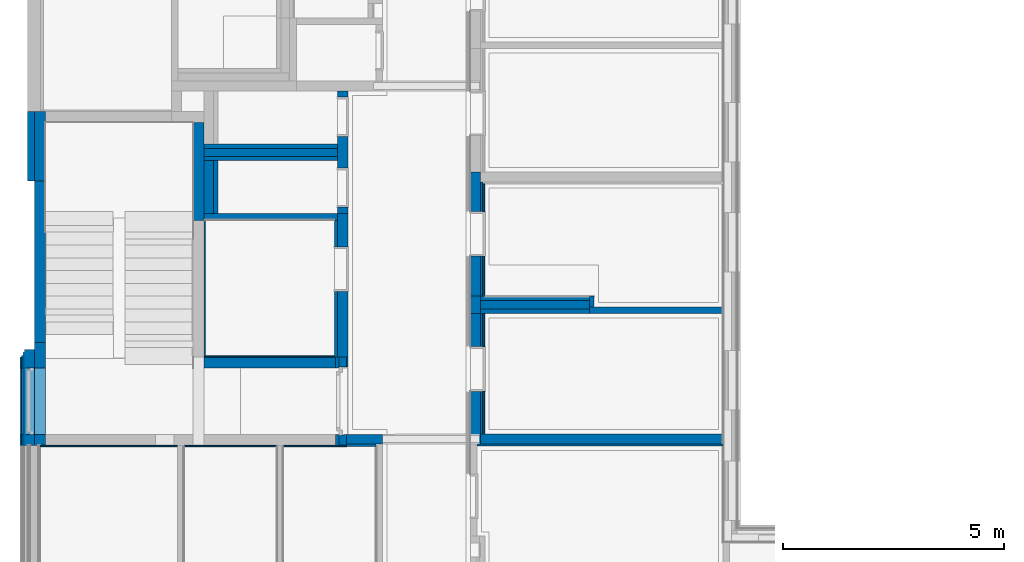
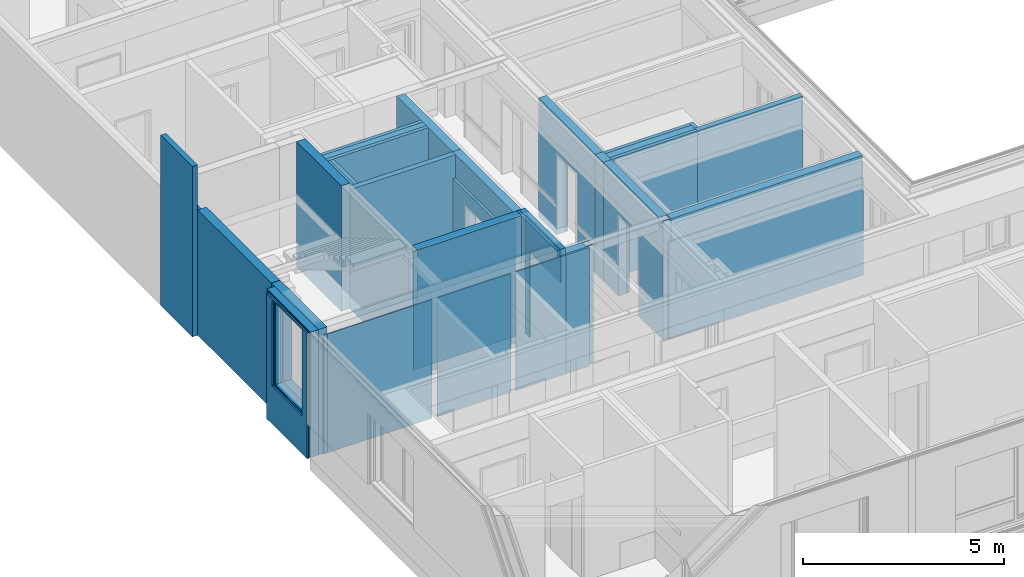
# One storey, part 14 of 207: 43 walls, 20 openings.
"""IFC4 building model written with IfcOpenShell, lengths in metres."""

from ifc_helpers import new_model, entity, si_unit, converted_unit, derived_unit, frame, frame_2d, origin, origin_with_axes, place, context, subcontext, project, spatial, polyline, rectangle, outline, extrude, clip, bounded_halfspace, material, element, save


model = new_model("IFC4")

# Units and contexts
model_context = context("Model", 3, precision=1e-05, world=origin())
body_context = subcontext(model_context, "Body", "Model", "MODEL_VIEW")
ifc_project = project(units=[si_unit("LENGTHUNIT", "METRE"), si_unit("AREAUNIT", "SQUARE_METRE"), si_unit("VOLUMEUNIT", "CUBIC_METRE"), si_unit("MASSUNIT", "GRAM", prefix="KILO"), converted_unit("PLANEANGLEUNIT", "DEGREE", entity("IfcPlaneAngleMeasure", 0.0174532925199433), si_unit("PLANEANGLEUNIT", "RADIAN"), dimensions=[0, 0, 0, 0, 0, 0, 0]), derived_unit("THERMALTRANSMITTANCEUNIT", [(si_unit("POWERUNIT", "WATT"), 1), (si_unit("THERMODYNAMICTEMPERATUREUNIT", "KELVIN"), -1), (si_unit("LENGTHUNIT", "METRE"), -2)]), derived_unit("VOLUMETRICFLOWRATEUNIT", [(si_unit("LENGTHUNIT", "METRE"), 3), (converted_unit("TIMEUNIT", "hour", entity("IfcTimeMeasure", 3600.0), si_unit("TIMEUNIT", "SECOND"), dimensions=[0, 0, 1, 0, 0, 0, 0]), -1), (si_unit("LENGTHUNIT", "METRE"), -1)])], contexts=[model_context])

# Site, building, storey
site_placement = place(None, origin())
site = spatial("IfcSite", under=ifc_project, at=site_placement, Name="Psychiatrie Neubau Wunstorf", CompositionType="ELEMENT")
building_placement = place(site_placement, origin())
building = spatial("IfcBuilding", under=site, at=building_placement, Name="Neubau H2 Stationsgebäude", CompositionType="ELEMENT")
storey_placement = place(building_placement, frame((0.0, 0.0, -0.2)))
storey = spatial("IfcBuildingStorey", under=building, at=storey_placement, Name="H2 Ebene 0", CompositionType="ELEMENT", Elevation=-0.2)

# Walls
ifc_material_1 = material(Name="WA-STB")
wall_1_placement = place(storey_placement, frame((0.279999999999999, 15.614246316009, 0.0), z_axis=(0.0, 0.0, 1.0), x_axis=(-1.43838785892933e-16, 1.0, 0.0)))
element("IfcWall", 1, at=wall_1_placement, inside=storey, material=ifc_material_1, context=body_context, shape_type="SweptSolid", body=[
    extrude(rectangle(XDim=1.58075357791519, YDim=0.25, at=frame_2d((0.790376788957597, 0.125), x_axis=(1.0, 0.0))), origin_with_axes(), (0.0, 0.0, 1.0), 3.6),
])
ifc_material_2 = material(Name="WA-DL")
wall_2_placement = place(storey_placement, frame((0.0299999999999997, 15.614246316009, 0.0), z_axis=(0.0, 0.0, 1.0), x_axis=(-1.43838785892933e-16, 1.0, 0.0)))
element("IfcWall", 2, at=wall_2_placement, inside=storey, material=ifc_material_2, context=body_context, shape_type="SweptSolid", body=[
    extrude(rectangle(XDim=1.58075357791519, YDim=0.151, at=frame_2d((0.790376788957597, 0.0755), x_axis=(1.0, 0.0))), origin_with_axes(), (0.0, 0.0, 1.0), 5.16),
])
ifc_material_3 = material(Name="WA-STB")
wall_3_placement = place(storey_placement, frame((0.279999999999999, 11.9562462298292, 0.0), z_axis=(0.0, 0.0, 1.0), x_axis=(6.21579196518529e-17, 1.0, 0.0)))
element("IfcWall", 3, at=wall_3_placement, inside=storey, material=ifc_material_3, context=body_context, shape_type="SweptSolid", body=[
    extrude(rectangle(XDim=3.65800008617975, YDim=0.25, at=frame_2d((1.82900004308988, 0.125), x_axis=(1.0, 0.0))), origin_with_axes(), (0.0, 0.0, 1.0), 3.8),
])

# Wall, opening
ifc_material_4 = material(Name="WA-STB")
wall_4_placement = place(storey_placement, frame((0.28, 9.62499989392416, 0.0), z_axis=(0.0, 0.0, 1.0), x_axis=(0.0, 1.0, 0.0)))
wall_4 = element("IfcWall", 4, at=wall_4_placement, inside=storey, material=ifc_material_4, context=body_context, shape_type="SweptSolid", body=[
    extrude(rectangle(XDim=2.33124633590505, YDim=0.25, at=frame_2d((1.16562316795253, 0.125), x_axis=(1.0, 0.0))), origin_with_axes(), (0.0, 0.0, 1.0), 3.8),
])
opening_1_placement = place(wall_4_placement, frame((1.75, 0.25, 1.155), z_axis=(0.0, -1.0, 0.0), x_axis=(0.0, 0.0, 1.0)))
element("IfcOpeningElement", 5, at=opening_1_placement, cuts=wall_4, Name="Türöffnung", ObjectType="Opening", context=body_context, shape_type="SweptSolid", body=[
    extrude(outline(polyline([(2.6, 1.5000257), (2.6, 0.0), (0.0, 0.0), (0.0, 1.5000257), (2.6, 1.5000257)])), origin_with_axes(), (0.0, 0.0, 1.0), 0.25),
])

ifc_material_5 = material(Name="WA-DL")
wall_5_placement = place(storey_placement, frame((0.0299999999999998, 9.62499989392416, 0.0), z_axis=(0.0, 0.0, 1.0), x_axis=(0.0, 1.0, 0.0)))
wall_5 = element("IfcWall", 6, at=wall_5_placement, inside=storey, material=ifc_material_5, context=body_context, shape_type="SweptSolid", body=[
    extrude(rectangle(XDim=2.17124634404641, YDim=0.22, at=frame_2d((1.0856231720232, 0.11), x_axis=(1.0, 0.0))), origin_with_axes(), (0.0, 0.0, 1.0), 3.8),
])
opening_2_placement = place(wall_5_placement, frame((1.75, 0.22, 1.155), z_axis=(0.0, -1.0, 0.0), x_axis=(0.0, 0.0, 1.0)))
element("IfcOpeningElement", 7, at=opening_2_placement, cuts=wall_5, Name="Türöffnung", ObjectType="Opening", context=body_context, shape_type="SweptSolid", body=[
    extrude(outline(polyline([(2.6, 1.5000257), (2.6, 0.0), (0.0, 0.0), (0.0, 1.5000257), (2.6, 1.5000257)])), origin_with_axes(), (0.0, 0.0, 1.0), 0.22),
])

ifc_material_6 = material(Name="WA-LB")
wall_6_placement = place(storey_placement, frame((-0.19, 9.62499989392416, 0.5), z_axis=(0.0, 0.0, 1.0), x_axis=(0.0, 1.0, 0.0)))
wall_6 = element("IfcWall", 8, at=wall_6_placement, inside=storey, material=ifc_material_6, context=body_context, shape_type="SweptSolid", body=[
    extrude(rectangle(XDim=2.09124635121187, YDim=0.01, at=frame_2d((1.04562317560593, 0.005), x_axis=(1.0, 0.0))), origin_with_axes(), (0.0, 0.0, 1.0), 3.3),
])
opening_3_placement = place(wall_6_placement, frame((1.75, 0.01, 0.655), z_axis=(0.0, -1.0, 0.0), x_axis=(0.0, 0.0, 1.0)))
element("IfcOpeningElement", 9, at=opening_3_placement, cuts=wall_6, Name="Türöffnung", ObjectType="Opening", context=body_context, shape_type="SweptSolid", body=[
    extrude(outline(polyline([(2.6, 1.5000257), (2.6, 0.0), (0.0, 0.0), (0.0, 1.5000257), (2.6, 1.5000257)])), origin_with_axes(), (0.0, 0.0, 1.0), 0.01),
])

ifc_material_7 = material(Name="WA-KL")
wall_7_placement = place(storey_placement, frame((-0.2, 9.62499989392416, 0.0), z_axis=(0.0, 0.0, 1.0), x_axis=(0.0, 1.0, 0.0)))
wall_7 = element("IfcWall", 10, at=wall_7_placement, inside=storey, material=ifc_material_7, context=body_context, shape_type="SweptSolid", body=[
    extrude(rectangle(XDim=2.05524635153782, YDim=0.025, at=frame_2d((1.02762317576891, 0.0125), x_axis=(1.0, 0.0))), origin_with_axes(), (0.0, 0.0, 1.0), 3.8),
])
opening_4_placement = place(wall_7_placement, frame((1.75, 0.025, 1.155), z_axis=(0.0, -1.0, 0.0), x_axis=(0.0, 0.0, 1.0)))
element("IfcOpeningElement", 11, at=opening_4_placement, cuts=wall_7, Name="Türöffnung", ObjectType="Opening", context=body_context, shape_type="SweptSolid", body=[
    extrude(outline(polyline([(2.6, 1.5000257), (2.6, 0.0), (0.0, 0.0), (0.0, 1.5000257), (2.6, 1.5000257)])), origin_with_axes(), (0.0, 0.0, 1.0), 0.025),
])

ifc_material_8 = material(Name="WA-TL")
wall_8_placement = place(storey_placement, frame((-0.225, 9.62499989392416, 0.0), z_axis=(0.0, 0.0, 1.0), x_axis=(0.0, 1.0, 0.0)))
wall_8 = element("IfcWall", 12, at=wall_8_placement, inside=storey, material=ifc_material_8, context=body_context, shape_type="SweptSolid", body=[
    extrude(rectangle(XDim=2.03124635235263, YDim=0.025, at=frame_2d((1.01562317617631, 0.0125), x_axis=(1.0, 0.0))), origin_with_axes(), (0.0, 0.0, 1.0), 3.8),
])
opening_5_placement = place(wall_8_placement, frame((1.75, 0.025, 1.155), z_axis=(0.0, -1.0, 0.0), x_axis=(0.0, 0.0, 1.0)))
element("IfcOpeningElement", 13, at=opening_5_placement, cuts=wall_8, Name="Türöffnung", ObjectType="Opening", context=body_context, shape_type="SweptSolid", body=[
    extrude(outline(polyline([(2.6, 1.5000257), (2.6, 0.0), (0.0, 0.0), (0.0, 1.5000257), (2.6, 1.5000257)])), origin_with_axes(), (0.0, 0.0, 1.0), 0.025),
])

ifc_material_9 = material(Name="WA-HS")
wall_9_placement = place(storey_placement, frame((-0.25, 9.62499989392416, 0.0), z_axis=(0.0, 0.0, 1.0), x_axis=(0.0, 1.0, 0.0)))
wall_9 = element("IfcWall", 14, at=wall_9_placement, inside=storey, material=ifc_material_9, context=body_context, shape_type="SweptSolid", body=[
    extrude(rectangle(XDim=2.00724635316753, YDim=0.042, at=frame_2d((1.00362317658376, 0.021), x_axis=(1.0, 0.0))), origin_with_axes(), (0.0, 0.0, 1.0), 3.8),
])
opening_6_placement = place(wall_9_placement, frame((1.75, 0.042, 1.155), z_axis=(0.0, -1.0, 0.0), x_axis=(0.0, 0.0, 1.0)))
element("IfcOpeningElement", 15, at=opening_6_placement, cuts=wall_9, Name="Türöffnung", ObjectType="Opening", context=body_context, shape_type="SweptSolid", body=[
    extrude(outline(polyline([(2.6, 1.5000257), (2.6, 0.0), (0.0, 0.0), (0.0, 1.5000257), (2.6, 1.5000257)])), origin_with_axes(), (0.0, 0.0, 1.0), 0.042),
])

# Walls
ifc_material_10 = material(Name="WI-LB")
wall_10_placement = place(storey_placement, frame((6.90899877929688, 14.8750132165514, 0.0), z_axis=(0.0, 0.0, 1.0), x_axis=(-1.0, 0.0, 0.0)))
element("IfcWall", 16, at=wall_10_placement, inside=storey, material=ifc_material_10, context=body_context, shape_type="SweptSolid", body=[
    extrude(rectangle(XDim=3.02899877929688, YDim=0.15, at=frame_2d((1.51449938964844, 0.075), x_axis=(1.0, 0.0))), origin_with_axes(), (0.0, 0.0, 1.0), 3.6),
])
ifc_material_11 = material(Name="WI-IW")
wall_11_placement = place(storey_placement, frame((0.169, 9.59499989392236, 0.0)))
element("IfcWall", 17, at=wall_11_placement, inside=storey, material=ifc_material_11, context=body_context, shape_type="SweptSolid", body=[
    extrude(rectangle(XDim=0.111, YDim=0.0299996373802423, at=frame_2d((0.0555, 0.0149998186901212), x_axis=(1.0, 0.0))), origin_with_axes(), (0.0, 0.0, 1.0), 3.6),
])

# Wall, openings
ifc_material_12 = material(Name="WI-HW 60")
wall_12_placement = place(storey_placement, frame((7.14099877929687, 14.8750132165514, 0.0), z_axis=(0.0, 0.0, 1.0), x_axis=(0.0, 1.0, 0.0)))
wall_12 = element("IfcWall", 18, at=wall_12_placement, inside=storey, material=ifc_material_12, context=body_context, shape_type="SweptSolid", body=[
    extrude(rectangle(XDim=2.779, YDim=0.232, at=frame_2d((1.3895, 0.116), x_axis=(1.0, 0.0))), origin_with_axes(), (0.0, 0.0, 1.0), 3.6),
])
opening_7_placement = place(wall_12_placement, frame((0.15, 0.0, 0.0), z_axis=(0.0, 1.0, 0.0), x_axis=(0.0, 0.0, 1.0)))
element("IfcOpeningElement", 19, at=opening_7_placement, cuts=wall_12, Name="Türöffnung", ObjectType="Opening", context=body_context, shape_type="SweptSolid", body=[
    extrude(outline(polyline([(2.46, 0.885), (2.46, 0.0), (0.0, 0.0), (0.0, 0.885), (2.46, 0.885)])), origin_with_axes(), (0.0, 0.0, 1.0), 0.232),
])
opening_8_placement = place(wall_12_placement, frame((1.75500131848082, 0.0, 0.0), z_axis=(0.0, 1.0, 0.0), x_axis=(0.0, 0.0, 1.0)))
element("IfcOpeningElement", 20, at=opening_8_placement, cuts=wall_12, Name="Türöffnung", ObjectType="Opening", context=body_context, shape_type="SweptSolid", body=[
    extrude(outline(polyline([(2.46, 0.885), (2.46, 0.0), (0.0, 0.0), (0.0, 0.885), (2.46, 0.885)])), origin_with_axes(), (0.0, 0.0, 1.0), 0.232),
])

# Walls
ifc_material_13 = material(Name="WI-HW 60")
wall_13_placement = place(storey_placement, frame((15.639, 9.88199989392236, 0.0), z_axis=(0.0, 0.0, 1.0), x_axis=(-1.0, 0.0, 0.0)))
element("IfcWall", 21, at=wall_13_placement, inside=storey, material=ifc_material_13, context=body_context, shape_type="SweptSolid", body=[
    extrude(rectangle(XDim=5.48949997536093, YDim=0.232, at=frame_2d((2.74474998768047, 0.116), x_axis=(1.0, 0.0))), origin_with_axes(), (0.0, 0.0, 1.0), 3.6),
])
ifc_material_14 = material(Name="WI-LB")
wall_14_placement = place(storey_placement, frame((15.639, 9.64999989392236, 0.0), z_axis=(0.0, 0.0, 1.0), x_axis=(-1.0, 0.0, 0.0)))
element("IfcWall", 22, at=wall_14_placement, inside=storey, material=ifc_material_14, context=body_context, shape_type="SweptSolid", body=[
    extrude(rectangle(XDim=5.57149997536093, YDim=0.0395, at=frame_2d((2.78574998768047, 0.01975), x_axis=(1.0, 0.0))), origin_with_axes(), (0.0, 0.0, 1.0), 2.95),
])

# Wall, opening
ifc_material_15 = material(Name="WI-LB")
wall_15_placement = place(storey_placement, frame((10.2390000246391, 9.88249989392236, 0.0), z_axis=(0.0, 0.0, 1.0), x_axis=(0.0, 1.0, 0.0)))
wall_15 = element("IfcWall", 23, at=wall_15_placement, inside=storey, material=ifc_material_15, context=body_context, shape_type="SweptSolid", body=[
    extrude(rectangle(XDim=2.72850010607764, YDim=0.0395, at=frame_2d((1.36425005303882, 0.01975), x_axis=(1.0, 0.0))), origin_with_axes(), (0.0, 0.0, 1.0), 2.95),
])
opening_9_placement = place(wall_15_placement, frame((1.97850010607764, 0.0395, 0.0), z_axis=(0.0, -1.0, 0.0), x_axis=(0.0, 0.0, 1.0)))
element("IfcOpeningElement", 24, at=opening_9_placement, cuts=wall_15, Name="Türöffnung", ObjectType="Opening", context=body_context, shape_type="SweptSolid", body=[
    extrude(outline(polyline([(2.46, 1.01), (2.46, 0.0), (0.0, 0.0), (0.0, 1.01), (2.46, 1.01)])), origin_with_axes(), (0.0, 0.0, 1.0), 0.0395),
])

ifc_material_16 = material(Name="Installationsraum")
wall_16_placement = place(storey_placement, frame((10.1995000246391, 9.88249989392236, 0.0), z_axis=(0.0, 0.0, 1.0), x_axis=(0.0, 1.0, 0.0)))
wall_16 = element("IfcWall", 25, at=wall_16_placement, inside=storey, material=ifc_material_16, context=body_context, shape_type="SweptSolid", body=[
    extrude(rectangle(XDim=2.72850010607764, YDim=0.05, at=frame_2d((1.36425005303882, 0.025), x_axis=(1.0, 0.0))), origin_with_axes(), (0.0, 0.0, 1.0), 2.95),
])
opening_10_placement = place(wall_16_placement, frame((1.97850010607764, 0.05, 0.0), z_axis=(0.0, -1.0, 0.0), x_axis=(0.0, 0.0, 1.0)))
element("IfcOpeningElement", 26, at=opening_10_placement, cuts=wall_16, Name="Türöffnung", ObjectType="Opening", context=body_context, shape_type="SweptSolid", body=[
    extrude(outline(polyline([(2.46, 1.01), (2.46, 0.0), (0.0, 0.0), (0.0, 1.01), (2.46, 1.01)])), origin_with_axes(), (0.0, 0.0, 1.0), 0.05),
])

ifc_material_17 = material(Name="WI-HW 60")
wall_17_placement = place(storey_placement, frame((10.1495000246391, 9.64999989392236, 0.0), z_axis=(0.0, 0.0, 1.0), x_axis=(0.0, 1.0, 0.0)))
wall_17 = element("IfcWall", 27, at=wall_17_placement, inside=storey, material=ifc_material_17, context=body_context, shape_type="Clipping", body=[
    clip(extrude(rectangle(XDim=2.96100010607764, YDim=0.232, at=frame_2d((1.48050005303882, 0.116), x_axis=(1.0, 0.0))), origin_with_axes(), (0.0, 0.0, 1.0), 3.6), bounded_halfspace(frame((0.115999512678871, 0.128252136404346, 3.4), z_axis=(0.0, 0.0, -1.0), x_axis=(-1.0, 0.0, 0.0)), True, origin_with_axes(), polyline([(0.195999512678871, 0.232), (0.035999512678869, 0.232), (0.035999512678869, 0.0245042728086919), (0.195999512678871, 0.0245042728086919), (0.195999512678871, 0.232)]))),
])
opening_11_placement = place(wall_17_placement, frame((2.21100010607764, 0.232, 0.0), z_axis=(0.0, -1.0, 0.0), x_axis=(0.0, 0.0, 1.0)))
element("IfcOpeningElement", 28, at=opening_11_placement, cuts=wall_17, Name="Türöffnung", ObjectType="Opening", context=body_context, shape_type="SweptSolid", body=[
    extrude(outline(polyline([(2.46, 1.01), (2.46, 0.0), (0.0, 0.0), (0.0, 1.01), (2.46, 1.01)])), origin_with_axes(), (0.0, 0.0, 1.0), 0.232),
])

# Wall
ifc_material_18 = material(Name="WI-LB")
wall_18_placement = place(storey_placement, frame((15.639, 12.761, 0.0), z_axis=(0.0, 0.0, 1.0), x_axis=(-1.0, 0.0, 0.0)))
element("IfcWall", 29, at=wall_18_placement, inside=storey, material=ifc_material_18, context=body_context, shape_type="SweptSolid", body=[
    extrude(rectangle(XDim=3.01999997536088, YDim=0.15, at=frame_2d((1.50999998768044, 0.075), x_axis=(1.0, 0.0))), origin_with_axes(), (0.0, 0.0, 1.0), 3.6),
])

# Wall, opening
ifc_material_19 = material(Name="WI-LB")
wall_19_placement = place(storey_placement, frame((10.2390000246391, 13.011, 0.0), z_axis=(0.0, 0.0, 1.0), x_axis=(0.0, 1.0, 0.0)))
wall_19 = element("IfcWall", 30, at=wall_19_placement, inside=storey, material=ifc_material_19, context=body_context, shape_type="SweptSolid", body=[
    extrude(rectangle(XDim=2.543, YDim=0.0395, at=frame_2d((1.2715, 0.01975), x_axis=(1.0, 0.0))), origin_with_axes(), (0.0, 0.0, 1.0), 2.95),
])
opening_12_placement = place(wall_19_placement, frame((1.91399989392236, 0.0395, 0.0), z_axis=(0.0, -1.0, 0.0), x_axis=(0.0, 0.0, 1.0)))
element("IfcOpeningElement", 31, at=opening_12_placement, cuts=wall_19, Name="Türöffnung", ObjectType="Opening", context=body_context, shape_type="SweptSolid", body=[
    extrude(outline(polyline([(2.46, 1.01), (2.46, 0.0), (0.0, 0.0), (0.0, 1.01), (2.46, 1.01)])), origin_with_axes(), (0.0, 0.0, 1.0), 0.0395),
])

ifc_material_20 = material(Name="Installationsraum")
wall_20_placement = place(storey_placement, frame((10.1995000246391, 13.011, 0.0), z_axis=(0.0, 0.0, 1.0), x_axis=(0.0, 1.0, 0.0)))
wall_20 = element("IfcWall", 32, at=wall_20_placement, inside=storey, material=ifc_material_20, context=body_context, shape_type="SweptSolid", body=[
    extrude(rectangle(XDim=2.5825, YDim=0.05, at=frame_2d((1.29125, 0.025), x_axis=(1.0, 0.0))), origin_with_axes(), (0.0, 0.0, 1.0), 2.95),
])
opening_13_placement = place(wall_20_placement, frame((1.91399989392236, 0.05, 0.0), z_axis=(0.0, -1.0, 0.0), x_axis=(0.0, 0.0, 1.0)))
element("IfcOpeningElement", 33, at=opening_13_placement, cuts=wall_20, Name="Türöffnung", ObjectType="Opening", context=body_context, shape_type="SweptSolid", body=[
    extrude(outline(polyline([(2.46, 1.01), (2.46, 0.0), (0.0, 0.0), (0.0, 1.01), (2.46, 1.01)])), origin_with_axes(), (0.0, 0.0, 1.0), 0.05),
])

ifc_material_21 = material(Name="WI-HW 60")
wall_21_placement = place(storey_placement, frame((10.1495000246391, 13.011, 0.0), z_axis=(0.0, 0.0, 1.0), x_axis=(0.0, 1.0, 0.0)))
wall_21 = element("IfcWall", 34, at=wall_21_placement, inside=storey, material=ifc_material_21, context=body_context, shape_type="SweptSolid", body=[
    extrude(rectangle(XDim=2.8145, YDim=0.232, at=frame_2d((1.40725, 0.116), x_axis=(1.0, 0.0))), origin_with_axes(), (0.0, 0.0, 1.0), 3.6),
])
opening_14_placement = place(wall_21_placement, frame((1.91399989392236, 0.232, 0.0), z_axis=(0.0, -1.0, 0.0), x_axis=(0.0, 0.0, 1.0)))
element("IfcOpeningElement", 35, at=opening_14_placement, cuts=wall_21, Name="Türöffnung", ObjectType="Opening", context=body_context, shape_type="SweptSolid", body=[
    extrude(outline(polyline([(2.46, 1.01), (2.46, 0.0), (0.0, 0.0), (0.0, 1.01), (2.46, 1.01)])), origin_with_axes(), (0.0, 0.0, 1.0), 0.232),
])

# Walls
ifc_material_22 = material(Name="WI-HW 60")
wall_22_placement = place(storey_placement, frame((9.91750002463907, 13.011, 0.0), z_axis=(0.0, 0.0, 1.0), x_axis=(0.0, -1.0, 0.0)))
element("IfcWall", 36, at=wall_22_placement, inside=storey, material=ifc_material_22, context=body_context, shape_type="SweptSolid", body=[
    extrude(rectangle(XDim=0.400000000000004, YDim=0.232, at=frame_2d((0.200000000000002, 0.116), x_axis=(1.0, 0.0))), origin_with_axes(), (0.0, 0.0, 1.0), 3.6),
])
ifc_material_23 = material(Name="WI-IW")
wall_23_placement = place(storey_placement, frame((12.6190000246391, 13.011, 0.0), z_axis=(0.0, 0.0, 1.0), x_axis=(-1.0, 0.0, 0.0)))
element("IfcWall", 37, at=wall_23_placement, inside=storey, material=ifc_material_23, context=body_context, shape_type="SweptSolid", body=[
    extrude(rectangle(XDim=2.46950000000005, YDim=0.1, at=frame_2d((1.23475000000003, 0.05), x_axis=(1.0, 0.0))), origin_with_axes(), (0.0, 0.0, 1.0), 3.6),
])
ifc_material_24 = material(Name="Installationsraum")
wall_24_placement = place(storey_placement, frame((12.6190000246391, 12.911, 0.0), z_axis=(0.0, 0.0, 1.0), x_axis=(-1.0, 0.0, 0.0)))
element("IfcWall", 38, at=wall_24_placement, inside=storey, material=ifc_material_24, context=body_context, shape_type="SweptSolid", body=[
    extrude(rectangle(XDim=2.46950000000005, YDim=0.2, at=frame_2d((1.23475000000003, 0.1), x_axis=(1.0, 0.0))), origin_with_axes(), (0.0, 0.0, 1.0), 3.6),
])
ifc_material_25 = material(Name="WI-IW")
wall_25_placement = place(storey_placement, frame((12.6190000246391, 12.711, 0.0), z_axis=(0.0, 0.0, 1.0), x_axis=(-1.0, 0.0, 0.0)))
element("IfcWall", 39, at=wall_25_placement, inside=storey, material=ifc_material_25, context=body_context, shape_type="SweptSolid", body=[
    extrude(rectangle(XDim=2.46950000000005, YDim=0.1, at=frame_2d((1.23475000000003, 0.05), x_axis=(1.0, 0.0))), origin_with_axes(), (0.0, 0.0, 1.0), 3.6),
])
ifc_material_26 = material(Name="WI-IW")
wall_26_placement = place(storey_placement, frame((12.7190000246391, 12.761, 0.0), z_axis=(0.0, 0.0, 1.0), x_axis=(0.0, 1.0, 0.0)))
element("IfcWall", 40, at=wall_26_placement, inside=storey, material=ifc_material_26, context=body_context, shape_type="SweptSolid", body=[
    extrude(rectangle(XDim=0.25, YDim=0.1, at=frame_2d((0.125, 0.05), x_axis=(1.0, 0.0))), origin_with_axes(), (0.0, 0.0, 1.0), 3.6),
])
ifc_material_27 = material(Name="WI-IW")
wall_27_placement = place(storey_placement, frame((3.88, 16.0770132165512, 0.0)))
element("IfcWall", 41, at=wall_27_placement, inside=storey, material=ifc_material_27, context=body_context, shape_type="SweptSolid", body=[
    extrude(outline(polyline([(0.0, 0.0), (3.02899877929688, 0.0), (3.02899877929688, 0.1), (0.31, 0.1), (0.0, 0.1), (0.0, 0.0)])), origin_with_axes(), (0.0, 0.0, 1.0), 3.6),
])
ifc_material_28 = material(Name="Installationsraum")
wall_28_placement = place(storey_placement, frame((3.88, 16.1770132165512, 0.0)))
element("IfcWall", 42, at=wall_28_placement, inside=storey, material=ifc_material_28, context=body_context, shape_type="SweptSolid", body=[
    extrude(rectangle(XDim=3.0289987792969, YDim=0.175, at=frame_2d((1.51449938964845, 0.0875), x_axis=(1.0, 0.0))), origin_with_axes(), (0.0, 0.0, 1.0), 3.6),
])
ifc_material_29 = material(Name="WI-IW")
wall_29_placement = place(storey_placement, frame((3.88, 16.3520132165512, 0.0)))
element("IfcWall", 43, at=wall_29_placement, inside=storey, material=ifc_material_29, context=body_context, shape_type="SweptSolid", body=[
    extrude(rectangle(XDim=3.0289987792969, YDim=0.1, at=frame_2d((1.51449938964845, 0.05), x_axis=(1.0, 0.0))), origin_with_axes(), (0.0, 0.0, 1.0), 3.6),
])
ifc_material_30 = material(Name="Installationsraum")
wall_30_placement = place(storey_placement, frame((3.88, 16.0770132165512, 0.0), z_axis=(0.0, 0.0, 1.0), x_axis=(0.0, -1.0, 0.0)))
element("IfcWall", 44, at=wall_30_placement, inside=storey, material=ifc_material_30, context=body_context, shape_type="SweptSolid", body=[
    extrude(rectangle(XDim=1.20199999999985, YDim=0.21, at=frame_2d((0.600999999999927, 0.105), x_axis=(1.0, 0.0))), origin_with_axes(), (0.0, 0.0, 1.0), 3.6),
])
ifc_material_31 = material(Name="WI-VS")
wall_31_placement = place(storey_placement, frame((4.09, 16.0770132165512, 0.0), z_axis=(0.0, 0.0, 1.0), x_axis=(0.0, -1.0, 0.0)))
element("IfcWall", 45, at=wall_31_placement, inside=storey, material=ifc_material_31, context=body_context, shape_type="SweptSolid", body=[
    extrude(rectangle(XDim=1.20199999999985, YDim=0.1, at=frame_2d((0.600999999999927, 0.05), x_axis=(1.0, 0.0))), origin_with_axes(), (0.0, 0.0, 1.0), 3.6),
])

# Wall, opening
ifc_material_32 = material(Name="WI-STB")
wall_32_placement = place(storey_placement, frame((6.86099914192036, 11.6249877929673, 0.0), z_axis=(0.0, 0.0, 1.0), x_axis=(0.0, -1.0, 0.0)))
wall_32 = element("IfcWall", 46, at=wall_32_placement, inside=storey, material=ifc_material_32, context=body_context, shape_type="SweptSolid", body=[
    extrude(rectangle(XDim=1.99998789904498, YDim=0.08, at=frame_2d((0.999993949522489, 0.04), x_axis=(1.0, 0.0))), origin_with_axes(), (0.0, 0.0, 1.0), 3.8),
])
opening_15_placement = place(wall_32_placement, frame((1.7500000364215, 0.08, 0.0), z_axis=(0.0, -1.0, 0.0), x_axis=(0.0, 0.0, 1.0)))
element("IfcOpeningElement", 47, at=opening_15_placement, cuts=wall_32, Name="Türöffnung", ObjectType="Opening", context=body_context, shape_type="SweptSolid", body=[
    extrude(outline(polyline([(2.55, 1.5), (2.55, 0.0), (0.0, 0.0), (0.0, 1.5), (2.55, 1.5)])), origin_with_axes(), (0.0, 0.0, 1.0), 0.08),
])

# Wall, openings
ifc_material_33 = material(Name="WI-STB")
wall_33_placement = place(storey_placement, frame((6.94099914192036, 11.6249877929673, 0.0), z_axis=(0.0, 0.0, 1.0), x_axis=(0.0, -1.0, 0.0)))
wall_33 = element("IfcWall", 48, at=wall_33_placement, inside=storey, material=ifc_material_33, context=body_context, shape_type="SweptSolid", body=[
    extrude(outline(polyline([(-1.99998789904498, 0.0), (0.0, 0.0), (0.0, 0.16999981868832), (-0.250000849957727, 0.170010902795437), (-1.99998789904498, 0.169999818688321), (-1.99998789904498, 0.0)])), frame((1.99998789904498, 0.0, 0.0), z_axis=(0.0, 0.0, 1.0), x_axis=(1.0, 0.0, 0.0)), (0.0, 0.0, 1.0), 3.8),
])
opening_16_placement = place(wall_33_placement, frame((1.74998704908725, 0.200010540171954, 0.0), z_axis=(7.2445759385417e-06, -0.999999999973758, 0.0), x_axis=(0.0, 0.0, 1.0)))
element("IfcOpeningElement", 49, at=opening_16_placement, cuts=wall_33, Name="Türöffnung", ObjectType="Opening", context=body_context, shape_type="SweptSolid", body=[
    extrude(outline(polyline([(2.58, 1.5299870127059), (2.58, 0.0), (0.0, 0.0), (0.0, 1.5299870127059), (2.58, 1.5299870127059)])), origin_with_axes(), (0.0, 0.0, 1.0), 0.0299996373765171),
])
opening_17_placement = place(wall_33_placement, frame((1.74998704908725, 0.170010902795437, 0.0), z_axis=(0.0, 0.0, 1.0), x_axis=(-0.999999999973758, -7.24457594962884e-06, 0.0)))
element("IfcOpeningElement", 50, at=opening_17_placement, cuts=wall_33, Name="Türöffnung", ObjectType="Opening", context=body_context, shape_type="SweptSolid", body=[
    extrude(outline(polyline([(0.0, 0.0), (1.5299870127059, 0.0), (1.5299882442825, 0.16999981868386), (-0.0300117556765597, 0.170011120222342), (0.0, 0.0)])), origin_with_axes(), (0.0, 0.0, 1.0), 2.58),
])

# Wall, opening
ifc_material_34 = material(Name="WI-LB")
wall_34_placement = place(storey_placement, frame((7.11099896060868, 11.6249877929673, 0.0), z_axis=(0.0, 0.0, 1.0), x_axis=(6.33382236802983e-06, -0.999999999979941, 0.0)))
wall_34 = element("IfcWall", 51, at=wall_34_placement, inside=storey, material=ifc_material_34, context=body_context, shape_type="Clipping", body=[
    clip(extrude(rectangle(XDim=1.74998704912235, YDim=0.0299996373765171, at=frame_2d((0.874993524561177, 0.0149998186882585), x_axis=(1.0, 0.0))), origin_with_axes(), (0.0, 0.0, 1.0), 3.6), bounded_halfspace(frame((0.984993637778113, 0.0149996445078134, 2.58), z_axis=(0.0, 0.0, 1.0), x_axis=(-0.999999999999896, -4.5537679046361e-07, 0.0)), True, origin_with_axes(), polyline([(1.74998723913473, 0.0299996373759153), (0.220000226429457, 0.02999894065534), (0.220000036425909, 0.0), (1.74998704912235, 0.0), (1.74998723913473, 0.0299996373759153)]))),
])
opening_18_placement = place(wall_34_placement, frame((1.74998723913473, 0.0299996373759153, 0.0), z_axis=(9.10753575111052e-07, -0.999999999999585, 0.0), x_axis=(0.0, 0.0, 1.0)))
element("IfcOpeningElement", 52, at=opening_18_placement, cuts=wall_34, Name="Türöffnung", ObjectType="Opening", context=body_context, shape_type="SweptSolid", body=[
    extrude(outline(polyline([(2.58, 1.5299870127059), (2.58, 0.0), (0.0, 0.0), (0.0, 1.5299870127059), (2.58, 1.5299870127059)])), origin_with_axes(), (0.0, 0.0, 1.0), 0.0299996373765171),
])

# Walls
ifc_material_35 = material(Name="WI-IW")
wall_35_placement = place(storey_placement, frame((7.11097661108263, 9.62499989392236, 0.0), z_axis=(0.0, 0.0, 1.0), x_axis=(-1.0, 0.0, 0.0)))
element("IfcWall", 53, at=wall_35_placement, inside=storey, material=ifc_material_35, context=body_context, shape_type="SweptSolid", body=[
    extrude(rectangle(XDim=2.995, YDim=0.0299996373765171, at=frame_2d((1.4975, 0.0149998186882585), x_axis=(1.0, 0.0))), frame((3.83597661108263, 0.0, 0.0), z_axis=(0.0, 0.0, 1.0), x_axis=(1.0, 0.0, 0.0)), (0.0, 0.0, 1.0), 3.6),
    extrude(rectangle(XDim=2.1, YDim=0.0299996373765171, at=frame_2d((-1.05, -0.0149998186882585), x_axis=(-1.0, 0.0))), frame((3.68597661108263, 0.0299996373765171, 0.0), z_axis=(0.0, 0.0, 1.0), x_axis=(1.0, 0.0, 0.0)), (0.0, 0.0, 1.0), 3.6),
    extrude(rectangle(XDim=1.43597661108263, YDim=0.0299996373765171, at=frame_2d((0.717988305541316, 0.0149998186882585), x_axis=(1.0, 0.0))), origin_with_axes(), (0.0, 0.0, 1.0), 3.6),
])
ifc_material_36 = material(Name="WI-HW 60")
wall_36_placement = place(storey_placement, frame((7.92501108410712, 9.87500074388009, 0.0), z_axis=(0.0, 0.0, 1.0), x_axis=(-1.0, 0.0, 0.0)))
element("IfcWall", 54, at=wall_36_placement, inside=storey, material=ifc_material_36, context=body_context, shape_type="Clipping", body=[
    clip(extrude(outline(polyline([(-0.814034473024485, -0.225000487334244), (-1.10841071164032e-05, -0.225000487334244), (0.0, 0.0), (-0.814023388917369, 0.0), (-0.814034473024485, -0.225000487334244)])), frame((0.814034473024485, 0.225000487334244, 0.0), z_axis=(0.0, 0.0, 1.0), x_axis=(1.0, 0.0, 0.0)), (0.0, 0.0, 1.0), 3.6), bounded_halfspace(frame((0.1000137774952, 0.109001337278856, 3.4), z_axis=(0.0, 0.0, -1.0), x_axis=(0.0, 1.0, 0.0)), True, origin_with_axes(), polyline([(0.200022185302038, 0.0290013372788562), (0.200022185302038, 0.189001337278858), (9.31069568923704e-06, 0.189001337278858), (1.42868103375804e-06, 0.0290013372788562), (0.200022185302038, 0.0290013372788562)]))),
])
ifc_material_37 = material(Name="WI-IW")
wall_37_placement = place(storey_placement, frame((7.775, 9.65000025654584, 0.0), z_axis=(0.0, 0.0, 1.0), x_axis=(-1.0, 0.0, 0.0)))
element("IfcWall", 55, at=wall_37_placement, inside=storey, material=ifc_material_37, context=body_context, shape_type="SweptSolid", body=[
    extrude(rectangle(XDim=0.664023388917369, YDim=0.055, at=frame_2d((0.332011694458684, 0.0275), x_axis=(1.0, 0.0))), origin_with_axes(), (0.0, 0.0, 1.0), 3.6),
])
ifc_material_38 = material(Name="WI-LB")
wall_38_placement = place(storey_placement, frame((6.83399877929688, 11.6549995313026, 0.0), z_axis=(0.0, 0.0, 1.0), x_axis=(-1.0, 0.0, 0.0)))
element("IfcWall", 56, at=wall_38_placement, inside=storey, material=ifc_material_38, context=body_context, shape_type="SweptSolid", body=[
    extrude(rectangle(XDim=2.92399914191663, YDim=0.0299996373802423, at=frame_2d((1.46199957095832, 0.0149998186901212), x_axis=(1.0, 0.0))), origin_with_axes(), (0.0, 0.0, 1.0), 3.6),
])
ifc_material_39 = material(Name="WI-STB")
wall_39_placement = place(storey_placement, frame((6.86099914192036, 11.6249998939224, 0.0), z_axis=(0.0, 0.0, 1.0), x_axis=(-1.0, 0.0, 0.0)))
element("IfcWall", 57, at=wall_39_placement, inside=storey, material=ifc_material_39, context=body_context, shape_type="SweptSolid", body=[
    extrude(outline(polyline([(-2.95399877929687, -0.25), (0.0, -0.25), (0.0, 0.0), (-2.98099914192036, 0.0), (-2.98099914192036, -0.25), (-2.95399877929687, -0.249987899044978), (-2.95399877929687, -0.25)])), frame((2.98099914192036, 0.25, 0.0), z_axis=(0.0, 0.0, 1.0), x_axis=(1.0, 0.0, 0.0)), (0.0, 0.0, 1.0), 3.8),
])

# Wall, opening
ifc_material_40 = material(Name="WI-LB")
wall_40_placement = place(storey_placement, frame((6.83399877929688, 14.7250132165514, 0.0), z_axis=(0.0, 0.0, 1.0), x_axis=(0.0, -1.0, 0.0)))
wall_40 = element("IfcWall", 58, at=wall_40_placement, inside=storey, material=ifc_material_40, context=body_context, shape_type="SweptSolid", body=[
    extrude(rectangle(XDim=3.10002542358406, YDim=0.075, at=frame_2d((1.55001271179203, 0.0375), x_axis=(1.0, 0.0))), origin_with_axes(), (0.0, 0.0, 1.0), 2.9),
])
opening_19_placement = place(wall_40_placement, frame((1.61001332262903, 0.075, 0.0), z_axis=(0.0, -1.0, 0.0), x_axis=(0.0, 0.0, 1.0)))
element("IfcOpeningElement", 59, at=opening_19_placement, cuts=wall_40, Name="Türöffnung", ObjectType="Opening", context=body_context, shape_type="SweptSolid", body=[
    extrude(outline(polyline([(2.46, 1.01), (2.46, 0.0), (0.0, 0.0), (0.0, 1.01), (2.46, 1.01)])), origin_with_axes(), (0.0, 0.0, 1.0), 0.075),
])

ifc_material_41 = material(Name="WI-HW 60")
wall_41_placement = place(storey_placement, frame((6.90899877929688, 14.8750132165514, 0.0), z_axis=(0.0, 0.0, 1.0), x_axis=(0.0, -1.0, 0.0)))
wall_41 = element("IfcWall", 60, at=wall_41_placement, inside=storey, material=ifc_material_41, context=body_context, shape_type="SweptSolid", body=[
    extrude(rectangle(XDim=3.25002542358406, YDim=0.232, at=frame_2d((1.62501271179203, 0.116), x_axis=(1.0, 0.0))), origin_with_axes(), (0.0, 0.0, 1.0), 3.6),
])
opening_20_placement = place(wall_41_placement, frame((1.76001332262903, 0.232, 0.0), z_axis=(0.0, -1.0, 0.0), x_axis=(0.0, 0.0, 1.0)))
element("IfcOpeningElement", 61, at=opening_20_placement, cuts=wall_41, Name="Türöffnung", ObjectType="Opening", context=body_context, shape_type="SweptSolid", body=[
    extrude(outline(polyline([(2.46, 1.01), (2.46, 0.0), (0.0, 0.0), (0.0, 1.01), (2.46, 1.01)])), origin_with_axes(), (0.0, 0.0, 1.0), 0.232),
])

# Walls
ifc_material_42 = material(Name="WI-STB")
wall_42_placement = place(storey_placement, frame((3.63, 16.9449998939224, 0.0), z_axis=(0.0, 0.0, 1.0), x_axis=(0.0, -1.0, 0.0)))
element("IfcWall", 62, at=wall_42_placement, inside=storey, material=ifc_material_42, context=body_context, shape_type="SweptSolid", body=[
    extrude(rectangle(XDim=2.21998667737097, YDim=0.25, at=frame_2d((1.10999333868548, 0.125), x_axis=(1.0, 0.0))), origin_with_axes(), (0.0, 0.0, 1.0), 3.8),
])
ifc_material_43 = material(Name="WI-LB")
wall_43_placement = place(storey_placement, frame((3.88, 14.7250132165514, 0.0), z_axis=(0.0, 0.0, 1.0), x_axis=(0.0, -1.0, 0.0)))
element("IfcWall", 63, at=wall_43_placement, inside=storey, material=ifc_material_43, context=body_context, shape_type="SweptSolid", body=[
    extrude(rectangle(XDim=3.10001332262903, YDim=0.0299996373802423, at=frame_2d((1.55000666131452, 0.0149998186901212), x_axis=(1.0, 0.0))), origin_with_axes(), (0.0, 0.0, 1.0), 3.6),
])

save(model, "model.ifc")
